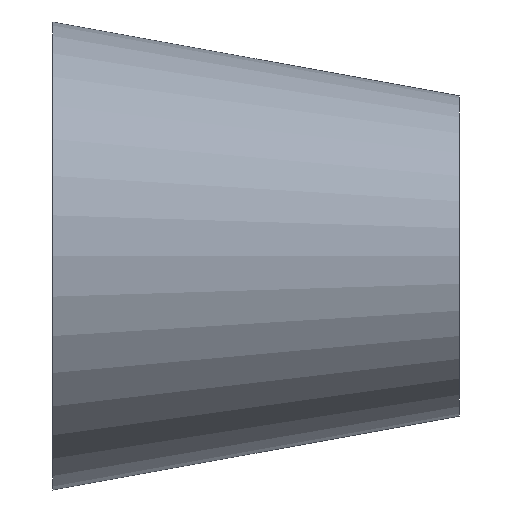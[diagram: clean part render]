
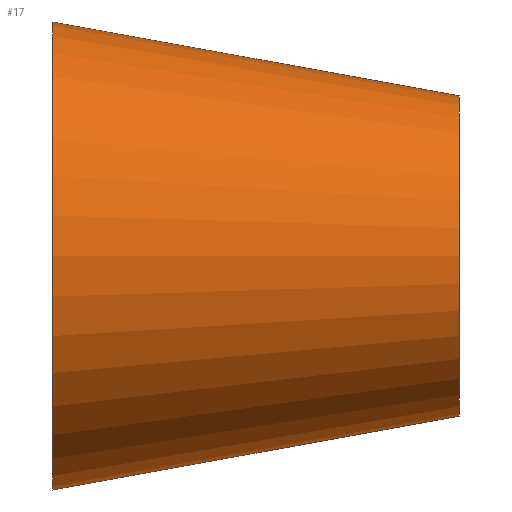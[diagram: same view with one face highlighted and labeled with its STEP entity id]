
A CAD part, front view. The second image highlights one B-rep face of the part: STEP entity #17.
In plain terms, the highlighted free-form (B-spline) face has degree [14, 1] with [15, 2] control points.
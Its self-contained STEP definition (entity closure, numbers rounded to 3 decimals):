
#17 = ADVANCED_FACE('',(#18),#31,.T.);
#18 = FACE_BOUND('',#19,.T.);
#19 = EDGE_LOOP('',(#20,#80,#102,#129));
#20 = ORIENTED_EDGE('',*,*,#21,.T.);
#21 = EDGE_CURVE('',#22,#22,#24,.T.);
#22 = VERTEX_POINT('',#23);
#23 = CARTESIAN_POINT('',(0.,9.5,0.));
#24 = SURFACE_CURVE('',#25,(#30,#68),.PCURVE_S1.);
#25 = CIRCLE('',#26,9.5);
#26 = AXIS2_PLACEMENT_3D('',#27,#28,#29);
#27 = CARTESIAN_POINT('',(0.,0.,0.));
#28 = DIRECTION('',(1.,0.,0.));
#29 = DIRECTION('',(0.,1.,0.));
#30 = PCURVE('',#31,#62);
#31 = B_SPLINE_SURFACE_WITH_KNOTS('',14,1,(
    (#32,#33)
    ,(#34,#35)
    ,(#36,#37)
    ,(#38,#39)
    ,(#40,#41)
    ,(#42,#43)
    ,(#44,#45)
    ,(#46,#47)
    ,(#48,#49)
    ,(#50,#51)
    ,(#52,#53)
    ,(#54,#55)
    ,(#56,#57)
    ,(#58,#59)
    ,(#60,#61
    )),.UNSPECIFIED.,.T.,.F.,.F.,(15,15),(2,2),(0.,6.283),(0.,1.
    ),.PIECEWISE_BEZIER_KNOTS.);
#32 = CARTESIAN_POINT('',(0.,9.5,0.));
#33 = CARTESIAN_POINT('',(16.5,3.5,0.));
#34 = CARTESIAN_POINT('',(0.,9.5,4.264));
#35 = CARTESIAN_POINT('',(16.5,3.5,2.917)
  );
#36 = CARTESIAN_POINT('',(0.,7.439,8.527));
#37 = CARTESIAN_POINT('',(16.5,2.09,5.834)
  );
#38 = CARTESIAN_POINT('',(0.,3.318,11.712));
#39 = CARTESIAN_POINT('',(16.5,-0.73,8.013)
  );
#40 = CARTESIAN_POINT('',(0.,-2.248,12.739));
#41 = CARTESIAN_POINT('',(16.5,-4.538,8.716
    ));
#42 = CARTESIAN_POINT('',(0.,-8.025,10.915));
#43 = CARTESIAN_POINT('',(16.5,-8.491,7.468)
  );
#44 = CARTESIAN_POINT('',(0.,-12.436,6.326));
#45 = CARTESIAN_POINT('',(16.5,-11.509,4.328
    ));
#46 = CARTESIAN_POINT('',(0.,-14.096,0.));
#47 = CARTESIAN_POINT('',(16.5,-12.645,
    0.));
#48 = CARTESIAN_POINT('',(0.,-12.436,-6.326));
#49 = CARTESIAN_POINT('',(16.5,-11.509,
    -4.328));
#50 = CARTESIAN_POINT('',(0.,-8.025,-10.915));
#51 = CARTESIAN_POINT('',(16.5,-8.491,
    -7.468));
#52 = CARTESIAN_POINT('',(0.,-2.248,-12.739));
#53 = CARTESIAN_POINT('',(16.5,-4.538,
    -8.716));
#54 = CARTESIAN_POINT('',(0.,3.318,-11.712));
#55 = CARTESIAN_POINT('',(16.5,-0.73,
    -8.013));
#56 = CARTESIAN_POINT('',(0.,7.439,-8.527));
#57 = CARTESIAN_POINT('',(16.5,2.09,-5.834
    ));
#58 = CARTESIAN_POINT('',(0.,9.5,-4.264));
#59 = CARTESIAN_POINT('',(16.5,3.5,-2.917));
#60 = CARTESIAN_POINT('',(0.,9.5,0.));
#61 = CARTESIAN_POINT('',(16.5,3.5,0.));
#62 = DEFINITIONAL_REPRESENTATION('',(#63),#67);
#63 = LINE('',#64,#65);
#64 = CARTESIAN_POINT('',(0.,0.));
#65 = VECTOR('',#66,1.);
#66 = DIRECTION('',(1.,0.));
#67 = ( GEOMETRIC_REPRESENTATION_CONTEXT(2) 
PARAMETRIC_REPRESENTATION_CONTEXT() REPRESENTATION_CONTEXT('2D SPACE',''
  ) );
#68 = PCURVE('',#69,#74);
#69 = PLANE('',#70);
#70 = AXIS2_PLACEMENT_3D('',#71,#72,#73);
#71 = CARTESIAN_POINT('',(0.,0.,0.));
#72 = DIRECTION('',(1.,0.,0.));
#73 = DIRECTION('',(0.,1.,0.));
#74 = DEFINITIONAL_REPRESENTATION('',(#75),#79);
#75 = CIRCLE('',#76,9.5);
#76 = AXIS2_PLACEMENT_2D('',#77,#78);
#77 = CARTESIAN_POINT('',(0.,0.));
#78 = DIRECTION('',(1.,0.));
#79 = ( GEOMETRIC_REPRESENTATION_CONTEXT(2) 
PARAMETRIC_REPRESENTATION_CONTEXT() REPRESENTATION_CONTEXT('2D SPACE',''
  ) );
#80 = ORIENTED_EDGE('',*,*,#81,.T.);
#81 = EDGE_CURVE('',#22,#82,#84,.T.);
#82 = VERTEX_POINT('',#83);
#83 = CARTESIAN_POINT('',(16.5,3.5,0.));
#84 = SEAM_CURVE('',#85,(#88,#95),.PCURVE_S1.);
#85 = B_SPLINE_CURVE_WITH_KNOTS('',1,(#86,#87),.UNSPECIFIED.,.F.,.F.,(2,
    2),(0.,1.),.PIECEWISE_BEZIER_KNOTS.);
#86 = CARTESIAN_POINT('',(0.,9.5,0.));
#87 = CARTESIAN_POINT('',(16.5,3.5,0.));
#88 = PCURVE('',#31,#89);
#89 = DEFINITIONAL_REPRESENTATION('',(#90),#94);
#90 = LINE('',#91,#92);
#91 = CARTESIAN_POINT('',(6.283,0.));
#92 = VECTOR('',#93,1.);
#93 = DIRECTION('',(0.,1.));
#94 = ( GEOMETRIC_REPRESENTATION_CONTEXT(2) 
PARAMETRIC_REPRESENTATION_CONTEXT() REPRESENTATION_CONTEXT('2D SPACE',''
  ) );
#95 = PCURVE('',#31,#96);
#96 = DEFINITIONAL_REPRESENTATION('',(#97),#101);
#97 = LINE('',#98,#99);
#98 = CARTESIAN_POINT('',(0.,0.));
#99 = VECTOR('',#100,1.);
#100 = DIRECTION('',(0.,1.));
#101 = ( GEOMETRIC_REPRESENTATION_CONTEXT(2) 
PARAMETRIC_REPRESENTATION_CONTEXT() REPRESENTATION_CONTEXT('2D SPACE',''
  ) );
#102 = ORIENTED_EDGE('',*,*,#103,.F.);
#103 = EDGE_CURVE('',#82,#82,#104,.T.);
#104 = SURFACE_CURVE('',#105,(#110,#117),.PCURVE_S1.);
#105 = CIRCLE('',#106,6.5);
#106 = AXIS2_PLACEMENT_3D('',#107,#108,#109);
#107 = CARTESIAN_POINT('',(16.5,-3.,0.));
#108 = DIRECTION('',(1.,0.,0.));
#109 = DIRECTION('',(0.,1.,0.));
#110 = PCURVE('',#31,#111);
#111 = DEFINITIONAL_REPRESENTATION('',(#112),#116);
#112 = LINE('',#113,#114);
#113 = CARTESIAN_POINT('',(0.,1.));
#114 = VECTOR('',#115,1.);
#115 = DIRECTION('',(1.,0.));
#116 = ( GEOMETRIC_REPRESENTATION_CONTEXT(2) 
PARAMETRIC_REPRESENTATION_CONTEXT() REPRESENTATION_CONTEXT('2D SPACE',''
  ) );
#117 = PCURVE('',#118,#123);
#118 = PLANE('',#119);
#119 = AXIS2_PLACEMENT_3D('',#120,#121,#122);
#120 = CARTESIAN_POINT('',(16.5,-3.,0.));
#121 = DIRECTION('',(1.,0.,0.));
#122 = DIRECTION('',(0.,1.,0.));
#123 = DEFINITIONAL_REPRESENTATION('',(#124),#128);
#124 = CIRCLE('',#125,6.5);
#125 = AXIS2_PLACEMENT_2D('',#126,#127);
#126 = CARTESIAN_POINT('',(0.,0.));
#127 = DIRECTION('',(1.,0.));
#128 = ( GEOMETRIC_REPRESENTATION_CONTEXT(2) 
PARAMETRIC_REPRESENTATION_CONTEXT() REPRESENTATION_CONTEXT('2D SPACE',''
  ) );
#129 = ORIENTED_EDGE('',*,*,#81,.F.);
